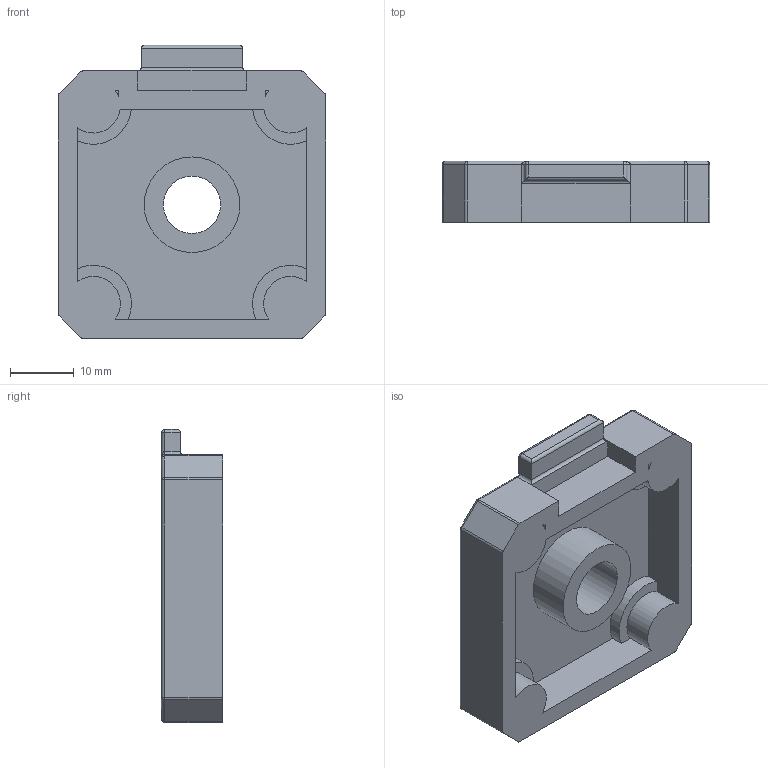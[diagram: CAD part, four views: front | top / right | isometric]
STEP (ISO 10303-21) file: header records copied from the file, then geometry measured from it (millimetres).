
FILE_DESCRIPTION(/* description */ ('STEP AP242','CAx-IF Rec.Pracs.---Representation and Presentation of Product Manufacturing Information (PMI)---4.0---2014-10-13','CAx-IF Rec.Pracs.---3D Tessellated Geometry---0.4---2014-09-14','2;1'),/* implementation_level */ '2;1');
FILE_NAME(/* name */ 'Arm Assembly - Nima 17 40x42x5mm (6)',/* time_stamp */ '2025-06-20T22:34:11Z',/* author */ (''),/* organization */ (''),/* preprocessor_version */ 'ST-DEVELOPER v20',/* originating_system */ 'ONSHAPE BY PTC INC, 1.199',/* authorisation */ ' ');
FILE_SCHEMA (('AP242_MANAGED_MODEL_BASED_3D_ENGINEERING_MIM_LF { 1 0 10303 442 1 1 4 }'));
Length unit declared in the file: metre
Products named in the file (1): Nima 17 40x42x5mm
Bounding box: 42 x 9.6 x 46 mm (x, y, z)
Volume: 9886.1 mm3; surface area: 6852 mm2
Topology: 1 solids, 1 shells, 101 faces, 229 edges, 130 vertices
Faces by surface type: cylinder 46, plane 43, sphere 10, bspline 2
Full cylindrical faces by diameter (mm): 2.5 x4, 6 x4, 9 x1, 15 x1
Entity records: 2753 total; most frequent: CARTESIAN_POINT 529, DIRECTION 487, ORIENTED_EDGE 414, EDGE_CURVE 207, AXIS2_PLACEMENT_3D 184, VERTEX_POINT 130, EDGE_LOOP 125, FACE_BOUND 125
